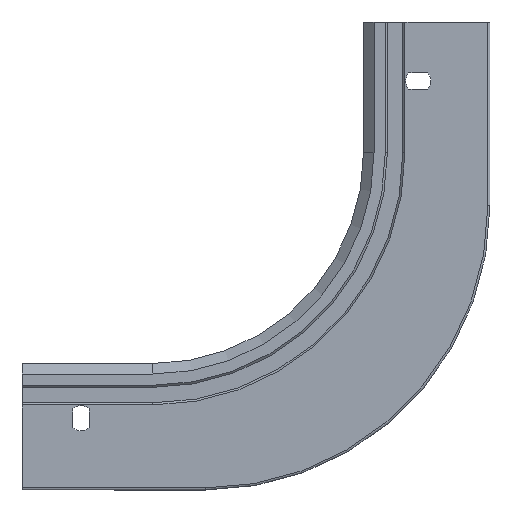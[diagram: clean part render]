
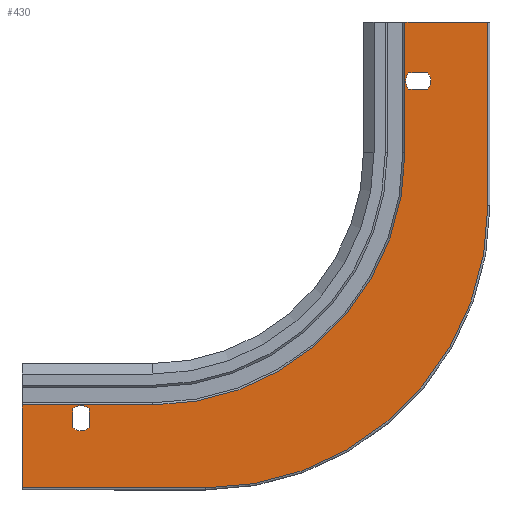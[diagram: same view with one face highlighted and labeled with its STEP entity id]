
A CAD part, left-side view. The second image highlights one B-rep face of the part: STEP entity #430.
In plain terms, the highlighted planar face has unit normal (-1, 0, 0) as drawn and (0, -1, 0) by its records, which use the part's own axes.
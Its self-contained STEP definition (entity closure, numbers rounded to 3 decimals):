
#12 = ORIENTED_EDGE ( 'NONE', *, *, #5384, .F. ) ;
#38 = EDGE_CURVE ( 'NONE', #502, #4561, #5709, .T. ) ;
#72 = ORIENTED_EDGE ( 'NONE', *, *, #4791, .F. ) ;
#147 = DIRECTION ( 'NONE',  ( 0., 0., -1. ) ) ;
#189 = VECTOR ( 'NONE', #1280, 1000. ) ;
#199 = CARTESIAN_POINT ( 'NONE',  ( 40.331, 0., 0. ) ) ;
#262 = AXIS2_PLACEMENT_3D ( 'NONE', #5843, #3487, #147 ) ;
#297 = DIRECTION ( 'NONE',  ( 0., 0., -1. ) ) ;
#298 = EDGE_CURVE ( 'NONE', #3233, #4065, #963, .T. ) ;
#327 = CARTESIAN_POINT ( 'NONE',  ( 40.331, 0., -62. ) ) ;
#408 = LINE ( 'NONE', #5067, #758 ) ;
#420 = CARTESIAN_POINT ( 'NONE',  ( 194., 0., -188. ) ) ;
#430 = ADVANCED_FACE ( 'NONE', ( #2588, #1629, #1590 ), #3054, .T. ) ;
#457 = AXIS2_PLACEMENT_3D ( 'NONE', #5939, #5108, #1875 ) ;
#502 = VERTEX_POINT ( 'NONE', #4103 ) ;
#518 = EDGE_CURVE ( 'NONE', #1460, #5183, #3193, .T. ) ;
#619 = CARTESIAN_POINT ( 'NONE',  ( 135., 0., -87. ) ) ;
#632 = LINE ( 'NONE', #2462, #2132 ) ;
#758 = VECTOR ( 'NONE', #4979, 1000. ) ;
#776 = CARTESIAN_POINT ( 'NONE',  ( 34., 0., -28. ) ) ;
#821 = LINE ( 'NONE', #1271, #4567 ) ;
#905 = CARTESIAN_POINT ( 'NONE',  ( 190., 0., -192.472 ) ) ;
#961 = DIRECTION ( 'NONE',  ( 0., 0., 1. ) ) ;
#963 = LINE ( 'NONE', #3180, #5624 ) ;
#999 = CARTESIAN_POINT ( 'NONE',  ( 222., 0., -181.669 ) ) ;
#1032 = VERTEX_POINT ( 'NONE', #905 ) ;
#1102 = DIRECTION ( 'NONE',  ( 0., -1., 0. ) ) ;
#1144 = DIRECTION ( 'NONE',  ( 0., -1., 0. ) ) ;
#1239 = CARTESIAN_POINT ( 'NONE',  ( 29.528, 0., -32. ) ) ;
#1271 = CARTESIAN_POINT ( 'NONE',  ( 222., 0., -221. ) ) ;
#1280 = DIRECTION ( 'NONE',  ( -1., 0., 0. ) ) ;
#1283 = ORIENTED_EDGE ( 'NONE', *, *, #4912, .F. ) ;
#1437 = EDGE_CURVE ( 'NONE', #4561, #1460, #2830, .T. ) ;
#1447 = CARTESIAN_POINT ( 'NONE',  ( 194., 0., -182. ) ) ;
#1460 = VERTEX_POINT ( 'NONE', #5561 ) ;
#1553 = DIRECTION ( 'NONE',  ( 0., 1., 0. ) ) ;
#1590 = FACE_OUTER_BOUND ( 'NONE', #3509, .T. ) ;
#1608 = DIRECTION ( 'NONE',  ( 1., 0., 0. ) ) ;
#1629 = FACE_BOUND ( 'NONE', #4504, .T. ) ;
#1662 = CARTESIAN_POINT ( 'NONE',  ( 198., 0., -192.472 ) ) ;
#1739 = CARTESIAN_POINT ( 'NONE',  ( 40.331, 0., -62. ) ) ;
#1747 = CARTESIAN_POINT ( 'NONE',  ( 38.472, 0., -32. ) ) ;
#1813 = CARTESIAN_POINT ( 'NONE',  ( 1., 0., -87. ) ) ;
#1814 = CIRCLE ( 'NONE', #457, 6. ) ;
#1844 = DIRECTION ( 'NONE',  ( 0., -1., 0. ) ) ;
#1875 = DIRECTION ( 'NONE',  ( 0., 0., -1. ) ) ;
#1920 = EDGE_LOOP ( 'NONE', ( #4157, #5016, #5932, #2652 ) ) ;
#1924 = ORIENTED_EDGE ( 'NONE', *, *, #3357, .F. ) ;
#2132 = VECTOR ( 'NONE', #5750, 1000. ) ;
#2185 = CARTESIAN_POINT ( 'NONE',  ( 194., 0., -188. ) ) ;
#2236 = VECTOR ( 'NONE', #1608, 1000. ) ;
#2244 = VERTEX_POINT ( 'NONE', #5029 ) ;
#2269 = DIRECTION ( 'NONE',  ( 0., 0., -1. ) ) ;
#2278 = VERTEX_POINT ( 'NONE', #1739 ) ;
#2297 = CIRCLE ( 'NONE', #2493, 119.669 ) ;
#2323 = ORIENTED_EDGE ( 'NONE', *, *, #1437, .F. ) ;
#2462 = CARTESIAN_POINT ( 'NONE',  ( 190., 0., 0. ) ) ;
#2493 = AXIS2_PLACEMENT_3D ( 'NONE', #3611, #1144, #5902 ) ;
#2557 = LINE ( 'NONE', #327, #5039 ) ;
#2588 = FACE_BOUND ( 'NONE', #1920, .T. ) ;
#2596 = AXIS2_PLACEMENT_3D ( 'NONE', #2185, #3025, #297 ) ;
#2604 = CIRCLE ( 'NONE', #2704, 6. ) ;
#2652 = ORIENTED_EDGE ( 'NONE', *, *, #298, .F. ) ;
#2704 = AXIS2_PLACEMENT_3D ( 'NONE', #2748, #5098, #2269 ) ;
#2743 = VERTEX_POINT ( 'NONE', #5826 ) ;
#2748 = CARTESIAN_POINT ( 'NONE',  ( 34., 0., -28. ) ) ;
#2750 = EDGE_CURVE ( 'NONE', #2743, #2964, #3041, .T. ) ;
#2793 = EDGE_CURVE ( 'NONE', #2964, #5920, #408, .T. ) ;
#2830 = LINE ( 'NONE', #1813, #4655 ) ;
#2964 = VERTEX_POINT ( 'NONE', #999 ) ;
#3025 = DIRECTION ( 'NONE',  ( 0., -1., 0. ) ) ;
#3041 = LINE ( 'NONE', #5789, #2236 ) ;
#3054 = PLANE ( 'NONE',  #262 ) ;
#3090 = CARTESIAN_POINT ( 'NONE',  ( 38.472, 0., -24. ) ) ;
#3180 = CARTESIAN_POINT ( 'NONE',  ( 0., 0., -32. ) ) ;
#3193 = LINE ( 'NONE', #3595, #4439 ) ;
#3233 = VERTEX_POINT ( 'NONE', #1239 ) ;
#3255 = EDGE_CURVE ( 'NONE', #5920, #502, #821, .T. ) ;
#3320 = VERTEX_POINT ( 'NONE', #3090 ) ;
#3334 = CARTESIAN_POINT ( 'NONE',  ( 198., 0., -183.528 ) ) ;
#3357 = EDGE_CURVE ( 'NONE', #3678, #5668, #4658, .T. ) ;
#3359 = CARTESIAN_POINT ( 'NONE',  ( 1., 0., -87. ) ) ;
#3443 = DIRECTION ( 'NONE',  ( 0., 0., 1. ) ) ;
#3448 = ORIENTED_EDGE ( 'NONE', *, *, #518, .F. ) ;
#3479 = EDGE_CURVE ( 'NONE', #5863, #1032, #632, .T. ) ;
#3487 = DIRECTION ( 'NONE',  ( 0., -1., 0. ) ) ;
#3509 = EDGE_LOOP ( 'NONE', ( #2323, #5243, #3746, #4533, #5583, #72, #5432, #3448 ) ) ;
#3577 = DIRECTION ( 'NONE',  ( 0., 0., 1. ) ) ;
#3595 = CARTESIAN_POINT ( 'NONE',  ( 40., 0., 0. ) ) ;
#3611 = CARTESIAN_POINT ( 'NONE',  ( 160., 0., -62. ) ) ;
#3640 = DIRECTION ( 'NONE',  ( 0., 0., -1. ) ) ;
#3677 = CARTESIAN_POINT ( 'NONE',  ( 0., 0., -24. ) ) ;
#3678 = VERTEX_POINT ( 'NONE', #1662 ) ;
#3746 = ORIENTED_EDGE ( 'NONE', *, *, #3255, .F. ) ;
#3926 = EDGE_CURVE ( 'NONE', #2244, #3233, #4660, .T. ) ;
#3971 = AXIS2_PLACEMENT_3D ( 'NONE', #619, #1553, #3443 ) ;
#3989 = VECTOR ( 'NONE', #5105, 1000. ) ;
#4065 = VERTEX_POINT ( 'NONE', #1747 ) ;
#4103 = CARTESIAN_POINT ( 'NONE',  ( 135., 0., -221. ) ) ;
#4107 = EDGE_CURVE ( 'NONE', #3320, #2244, #5440, .T. ) ;
#4139 = CARTESIAN_POINT ( 'NONE',  ( 198., 0., 0. ) ) ;
#4157 = ORIENTED_EDGE ( 'NONE', *, *, #3926, .F. ) ;
#4389 = CARTESIAN_POINT ( 'NONE',  ( 190., 0., -183.528 ) ) ;
#4406 = DIRECTION ( 'NONE',  ( 0., 0., -1. ) ) ;
#4439 = VECTOR ( 'NONE', #5858, 1000. ) ;
#4504 = EDGE_LOOP ( 'NONE', ( #1283, #5402, #12, #5091, #1924 ) ) ;
#4533 = ORIENTED_EDGE ( 'NONE', *, *, #2793, .F. ) ;
#4561 = VERTEX_POINT ( 'NONE', #3359 ) ;
#4567 = VECTOR ( 'NONE', #5916, 1000. ) ;
#4655 = VECTOR ( 'NONE', #961, 1000. ) ;
#4658 = LINE ( 'NONE', #4139, #3989 ) ;
#4660 = CIRCLE ( 'NONE', #4760, 6. ) ;
#4670 = EDGE_CURVE ( 'NONE', #5668, #5353, #4726, .T. ) ;
#4726 = CIRCLE ( 'NONE', #2596, 6. ) ;
#4741 = CARTESIAN_POINT ( 'NONE',  ( 222., 0., -221. ) ) ;
#4760 = AXIS2_PLACEMENT_3D ( 'NONE', #776, #1102, #4406 ) ;
#4791 = EDGE_CURVE ( 'NONE', #2278, #2743, #2297, .T. ) ;
#4912 = EDGE_CURVE ( 'NONE', #1032, #3678, #5419, .T. ) ;
#4919 = EDGE_CURVE ( 'NONE', #4065, #3320, #2604, .T. ) ;
#4979 = DIRECTION ( 'NONE',  ( 0., 0., -1. ) ) ;
#5016 = ORIENTED_EDGE ( 'NONE', *, *, #4107, .F. ) ;
#5021 = DIRECTION ( 'NONE',  ( 1., 0., 0. ) ) ;
#5029 = CARTESIAN_POINT ( 'NONE',  ( 29.528, 0., -24. ) ) ;
#5039 = VECTOR ( 'NONE', #3577, 1000. ) ;
#5067 = CARTESIAN_POINT ( 'NONE',  ( 222., 0., -222. ) ) ;
#5091 = ORIENTED_EDGE ( 'NONE', *, *, #4670, .F. ) ;
#5098 = DIRECTION ( 'NONE',  ( 0., -1., 0. ) ) ;
#5105 = DIRECTION ( 'NONE',  ( 0., 0., 1. ) ) ;
#5108 = DIRECTION ( 'NONE',  ( 0., -1., 0. ) ) ;
#5183 = VERTEX_POINT ( 'NONE', #199 ) ;
#5243 = ORIENTED_EDGE ( 'NONE', *, *, #38, .F. ) ;
#5353 = VERTEX_POINT ( 'NONE', #1447 ) ;
#5384 = EDGE_CURVE ( 'NONE', #5353, #5863, #1814, .T. ) ;
#5402 = ORIENTED_EDGE ( 'NONE', *, *, #3479, .F. ) ;
#5419 = CIRCLE ( 'NONE', #6002, 6. ) ;
#5432 = ORIENTED_EDGE ( 'NONE', *, *, #6022, .T. ) ;
#5440 = LINE ( 'NONE', #3677, #189 ) ;
#5561 = CARTESIAN_POINT ( 'NONE',  ( 1., 0., 0. ) ) ;
#5583 = ORIENTED_EDGE ( 'NONE', *, *, #2750, .F. ) ;
#5624 = VECTOR ( 'NONE', #5021, 1000. ) ;
#5668 = VERTEX_POINT ( 'NONE', #3334 ) ;
#5709 = CIRCLE ( 'NONE', #3971, 134. ) ;
#5750 = DIRECTION ( 'NONE',  ( 0., 0., -1. ) ) ;
#5789 = CARTESIAN_POINT ( 'NONE',  ( 160., 0., -181.669 ) ) ;
#5826 = CARTESIAN_POINT ( 'NONE',  ( 160., 0., -181.669 ) ) ;
#5843 = CARTESIAN_POINT ( 'NONE',  ( 0., 0., 0. ) ) ;
#5858 = DIRECTION ( 'NONE',  ( 1., 0., 0. ) ) ;
#5863 = VERTEX_POINT ( 'NONE', #4389 ) ;
#5902 = DIRECTION ( 'NONE',  ( 0., 0., -1. ) ) ;
#5916 = DIRECTION ( 'NONE',  ( -1., 0., 0. ) ) ;
#5920 = VERTEX_POINT ( 'NONE', #4741 ) ;
#5932 = ORIENTED_EDGE ( 'NONE', *, *, #4919, .F. ) ;
#5939 = CARTESIAN_POINT ( 'NONE',  ( 194., 0., -188. ) ) ;
#6002 = AXIS2_PLACEMENT_3D ( 'NONE', #420, #1844, #3640 ) ;
#6022 = EDGE_CURVE ( 'NONE', #2278, #5183, #2557, .T. ) ;
